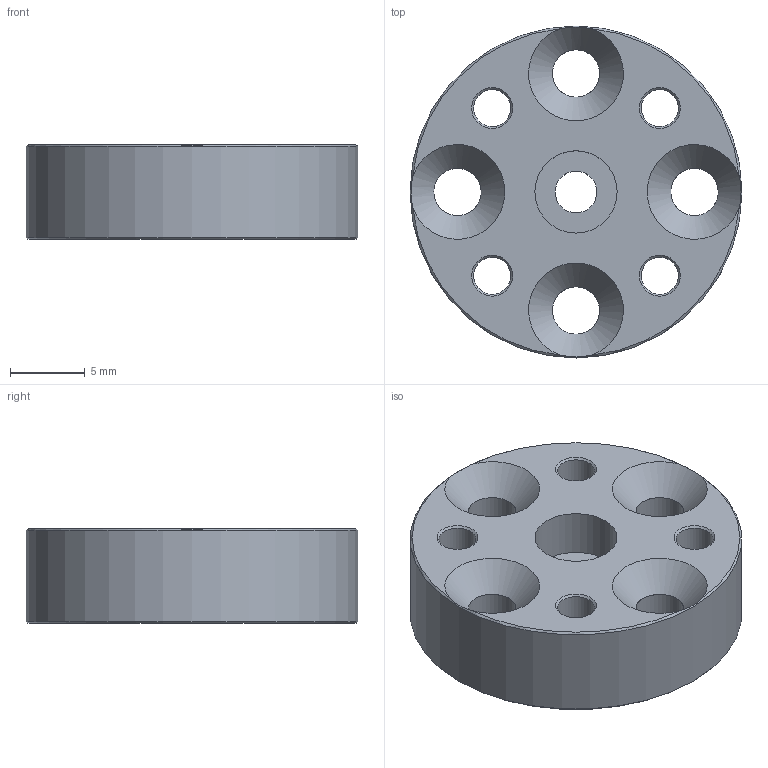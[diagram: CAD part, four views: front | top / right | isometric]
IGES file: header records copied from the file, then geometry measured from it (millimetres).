
Global section: file name: No Iges File Name specified; native system: AutoDesk Inventor R6.0; preprocessor: AutoDesk Inventor Iges Exporter R6.0; author: No Author specified; organization: No Organization specified; date: 20081220.163406; units: inch
Bounding box: 22.23 x 22.23 x 6.35 mm (x, y, z)
Surface area: 1597.7 mm2 (no closed solid volume)
Topology: 0 solids, 0 shells, 33 faces, 142 edges, 112 vertices
Faces by surface type: revolution 16, bspline 15, plane 2
